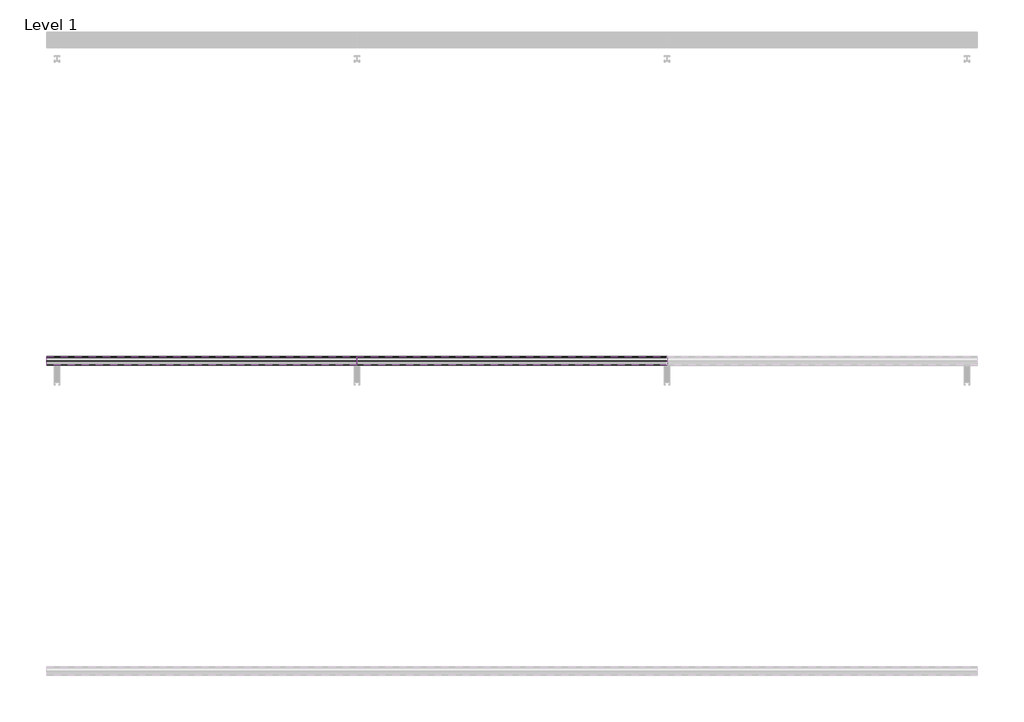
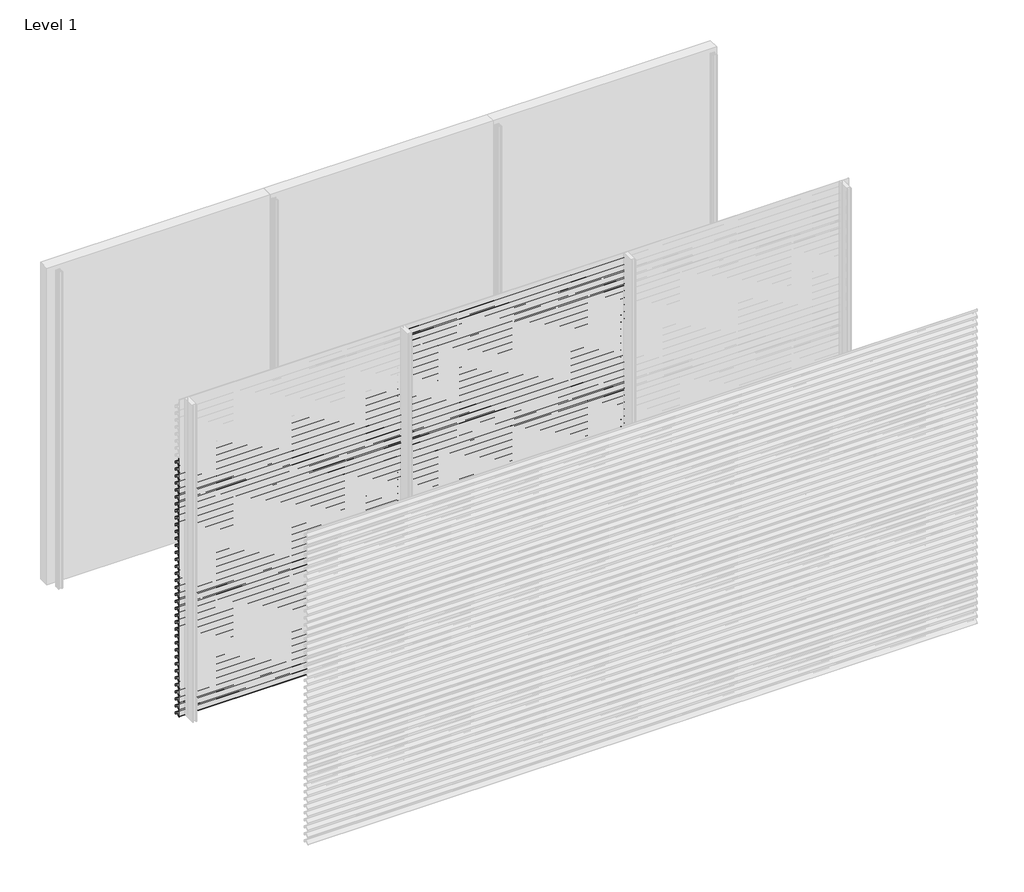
# One storey, part 6 of 27: 71 proxies.
"""IFC4 building model written with IfcOpenShell, lengths in millimetres."""

import ifcopenshell
import ifcopenshell.guid

model = None  # the IFC model being written
_history = None  # IfcOwnerHistory: only IFC2X3 demands one
_inside = {}  # id of a spatial element -> (the spatial element, [elements in it])
_under = {}  # id of a project, library or spatial element -> (it, [spatial elements below it])
_declared = {}  # id of a project -> (the project, [libraries it declares])
_typed = {}  # id of a type object -> (the type object, [elements of that type])
_made_of = {}  # id of a material, layer set ... -> (it, [elements and type objects made of it])


def new_model(schema):
    """Start an empty IFC model of exactly this schema.

    Asked for "IFC4X3", IfcOpenShell would pick the latest addendum, in which some entities
    have other attributes; the version numbers below select the first issue.
    IFC2X3 requires an IfcOwnerHistory on every rooted entity: one is made here for all.
    """
    global model, _history
    if schema == "IFC4X3":
        model = ifcopenshell.file(schema_version=(4, 3, 0, 0))
    else:
        model = ifcopenshell.file(schema=schema)
    _inside.clear()
    _under.clear()
    _declared.clear()
    _typed.clear()
    _made_of.clear()
    _history = None
    if model.schema == "IFC2X3":
        org = make("IfcOrganization", Name="unknown")
        user = make(
            "IfcPersonAndOrganization",
            ThePerson=make("IfcPerson", FamilyName="unknown"),
            TheOrganization=org,
        )
        app = make(
            "IfcApplication",
            ApplicationDeveloper=org,
            Version="unknown",
            ApplicationFullName="unknown",
            ApplicationIdentifier="unknown",
        )
        _history = make(
            "IfcOwnerHistory",
            OwningUser=user,
            OwningApplication=app,
            ChangeAction="ADDED",
            CreationDate=0,
        )
    return model


def make(cls, **values):
    """One entity of the class cls with the attributes given. An attribute that is None is left unset."""
    return model.create_entity(
        cls, **{name: value for name, value in values.items() if value is not None}
    )


def rooted(cls, **values):
    """An entity with a GlobalId (a new one), such as an element, a storey or a relation."""
    return make(cls, GlobalId=ifcopenshell.guid.new(), OwnerHistory=_history, **values)


def si_unit(unit_type, name, prefix=None):
    """IfcSIUnit, for example si_unit("LENGTHUNIT", "METRE", prefix="MILLI")."""
    return make("IfcSIUnit", UnitType=unit_type, Prefix=prefix, Name=name)


def assignment(units):
    """IfcUnitAssignment: the units of a project."""
    return None if units is None else make("IfcUnitAssignment", Units=units)


def point(xyz):
    """IfcCartesianPoint."""
    return None if xyz is None else make("IfcCartesianPoint", Coordinates=xyz)


def direction(xyz):
    """IfcDirection."""
    return None if xyz is None else make("IfcDirection", DirectionRatios=xyz)


def frame(location, z_axis=None, x_axis=None):
    """IfcAxis2Placement3D, a coordinate frame: its origin and axes. An axis left out is left unset."""
    return make(
        "IfcAxis2Placement3D",
        Location=point(location),
        Axis=direction(z_axis),
        RefDirection=direction(x_axis),
    )


def origin():
    """The frame at (0, 0, 0) with its axes left unset."""
    return frame((0.0, 0.0, 0.0))


def place(relative_to, where):
    """IfcLocalPlacement: puts the frame where relative to a parent placement (None: the world)."""
    return make(
        "IfcLocalPlacement", PlacementRelTo=relative_to, RelativePlacement=where
    )


def context(
    kind, dimensions, precision=None, world=None, true_north=None, identifier=None
):
    """IfcGeometricRepresentationContext, for example the 3D "Model" context."""
    return make(
        "IfcGeometricRepresentationContext",
        ContextIdentifier=identifier,
        ContextType=kind,
        CoordinateSpaceDimension=dimensions,
        Precision=precision,
        WorldCoordinateSystem=world,
        TrueNorth=true_north,
    )


def project(units=None, contexts=None):
    """IfcProject with its units and contexts."""
    return rooted(
        "IfcProject",
        Name="project",
        RepresentationContexts=contexts,
        UnitsInContext=assignment(units),
    )


def spatial(cls, under=None, at=None, **own):
    """A site, building, storey or space (cls), placed at a placement, below another one or the project."""
    s = rooted(cls, ObjectPlacement=at, **own)
    if under is not None:
        _under.setdefault(under.id(), (under, []))[1].append(s)
    return s


def polyline(points):
    """IfcPolyline through the points."""
    return make("IfcPolyline", Points=[point(p) for p in points])


def outline(outer, holes=None, kind="AREA"):
    """IfcArbitraryClosedProfileDef: a profile drawn as a closed curve; with holes, ...WithVoids."""
    if holes is None:
        return make("IfcArbitraryClosedProfileDef", ProfileType=kind, OuterCurve=outer)
    return make(
        "IfcArbitraryProfileDefWithVoids",
        ProfileType=kind,
        OuterCurve=outer,
        InnerCurves=holes,
    )


def extrude(swept, where, along, depth):
    """IfcExtrudedAreaSolid: the profile swept, set in the frame where, extruded along a direction by depth."""
    return make(
        "IfcExtrudedAreaSolid",
        SweptArea=swept,
        Position=where,
        ExtrudedDirection=direction(along),
        Depth=depth,
    )


def shape(context_of_items, identifier, shape_type, items):
    """IfcShapeRepresentation: the items that make up one representation, for example the "Body"."""
    return make(
        "IfcShapeRepresentation",
        ContextOfItems=context_of_items,
        RepresentationIdentifier=identifier,
        RepresentationType=shape_type,
        Items=items,
    )


def made_of(thing, what):
    """Note that an element or type object is made of a material, layer set ...; save() writes the relation."""
    if what is not None:
        _made_of.setdefault(what.id(), (what, []))[1].append(thing)
    return thing


def element(
    cls,
    number,
    at=None,
    inside=None,
    cuts=None,
    type_object=None,
    material=None,
    context=None,
    identifier="Body",
    shape_type=None,
    held_by="IfcProductDefinitionShape",
    body=None,
    shapes=None,
    **own,
):
    """One element of the class cls, such as IfcWall. Its Tag is "e" and its number.

    at: its placement. inside: the storey or other place that contains it. cuts: it is an
    opening in that element (IfcRelVoidsElement). A single representation is given by context,
    identifier, shape_type and body (its items); several are given by shapes. held_by: the class
    of the entity that holds the representations. save() writes the other relations.
    """
    e = rooted(cls, Tag="e%d" % number, ObjectPlacement=at, **own)
    if body is not None:
        shapes = [shape(context, identifier, shape_type, body)]
    if shapes is not None:
        e.Representation = make(held_by, Representations=shapes)
    if inside is not None:
        _inside.setdefault(inside.id(), (inside, []))[1].append(e)
    if cuts is not None:
        rooted(
            "IfcRelVoidsElement", RelatingBuildingElement=cuts, RelatedOpeningElement=e
        )
    if type_object is not None:
        _typed.setdefault(type_object.id(), (type_object, []))[1].append(e)
    return made_of(e, material)


def aggregate(whole, parts):
    """IfcRelAggregates: a whole, such as a stair, and the parts it consists of."""
    return rooted("IfcRelAggregates", RelatingObject=whole, RelatedObjects=parts)


def save(model, path):
    """Write the relations noted so far, then the file.

    IfcRelAggregates (storeys below a building ...), IfcRelContainedInSpatialStructure (elements
    in a storey), IfcRelDefinesByType, IfcRelAssociatesMaterial and IfcRelDeclares: one each for
    every whole, place, type object, material and project.
    """
    for whole, parts in _under.values():
        aggregate(whole, parts)
    for where, things in _inside.values():
        rooted(
            "IfcRelContainedInSpatialStructure",
            RelatedElements=things,
            RelatingStructure=where,
        )
    for kind, things in _typed.values():
        rooted("IfcRelDefinesByType", RelatedObjects=things, RelatingType=kind)
    for what, things in _made_of.values():
        rooted("IfcRelAssociatesMaterial", RelatedObjects=things, RelatingMaterial=what)
    for by, libraries in _declared.values():
        rooted("IfcRelDeclares", RelatingContext=by, RelatedDefinitions=libraries)
    model.write(path)


model = new_model("IFC4")

# Units and contexts
model_context = context("Model", 3, world=origin())
ifc_project = project(units=[si_unit("LENGTHUNIT", "METRE", prefix="MILLI")], contexts=[model_context])

# Site, building, storey
site = spatial("IfcSite", under=ifc_project)
building = spatial("IfcBuilding", under=site)
storey = spatial("IfcBuildingStorey", under=building, Name="Level 1", Elevation=0.0)

# Proxies
placement = place(None, origin())
element("IfcBuildingElementProxy", 1, Name="Wall Sweeps", at=placement, inside=storey, context=model_context, shape_type="SweptSolid", body=[
    extrude(outline(polyline([(-47943.0, 2385.2), (-47943.0, 2365.5), (-47944.25, 2366.5866084), (-47944.25, 2384.4872415), (-47963.0322086, 2397.6010889), (-47995.1332975, 2365.5), (-47996.0525363, 2366.4192388), (-47964.1148087, 2398.3569665), (-47998.0, 2422.0158044), (-47998.0, 2442.0), (-47996.75, 2442.0), (-47996.75, 2422.7285629), (-47943.0, 2385.2)])), frame((0.0, 0.0, 0.0), z_axis=(1.0, 0.0, 0.0), x_axis=(0.0, 1.0, 0.0)), (0.0, 0.0, 1.0), 2000.0),
])
element("IfcBuildingElementProxy", 2, Name="Wall Sweeps", at=placement, inside=storey, context=model_context, shape_type="SweptSolid", body=[
    extrude(outline(polyline([(-47943.0, 2319.2), (-47943.0, 2299.5), (-47944.25, 2300.5866084), (-47944.25, 2318.4872415), (-47963.0322086, 2331.6010889), (-47995.1332975, 2299.5), (-47996.0525363, 2300.4192388), (-47964.1148087, 2332.3569665), (-47998.0, 2356.0158044), (-47998.0, 2376.0), (-47996.75, 2376.0), (-47996.75, 2356.7285629), (-47943.0, 2319.2)])), frame((0.0, 0.0, 0.0), z_axis=(1.0, 0.0, 0.0), x_axis=(0.0, 1.0, 0.0)), (0.0, 0.0, 1.0), 2000.0),
])
element("IfcBuildingElementProxy", 3, Name="Wall Sweeps", at=placement, inside=storey, context=model_context, shape_type="SweptSolid", body=[
    extrude(outline(polyline([(-47943.0, 2253.2), (-47943.0, 2233.5), (-47944.25, 2234.5866084), (-47944.25, 2252.4872415), (-47963.0322086, 2265.6010889), (-47995.1332975, 2233.5), (-47996.0525363, 2234.4192388), (-47964.1148087, 2266.3569665), (-47998.0, 2290.0158044), (-47998.0, 2310.0), (-47996.75, 2310.0), (-47996.75, 2290.7285629), (-47943.0, 2253.2)])), frame((0.0, 0.0, 0.0), z_axis=(1.0, 0.0, 0.0), x_axis=(0.0, 1.0, 0.0)), (0.0, 0.0, 1.0), 2000.0),
])
element("IfcBuildingElementProxy", 4, Name="Wall Sweeps", at=placement, inside=storey, context=model_context, shape_type="SweptSolid", body=[
    extrude(outline(polyline([(-47943.0, 2187.2), (-47943.0, 2167.5), (-47944.25, 2168.5866084), (-47944.25, 2186.4872415), (-47963.0322086, 2199.6010889), (-47995.1332975, 2167.5), (-47996.0525363, 2168.4192388), (-47964.1148087, 2200.3569665), (-47998.0, 2224.0158044), (-47998.0, 2244.0), (-47996.75, 2244.0), (-47996.75, 2224.7285629), (-47943.0, 2187.2)])), frame((0.0, 0.0, 0.0), z_axis=(1.0, 0.0, 0.0), x_axis=(0.0, 1.0, 0.0)), (0.0, 0.0, 1.0), 2000.0),
])
element("IfcBuildingElementProxy", 5, Name="Wall Sweeps", at=placement, inside=storey, context=model_context, shape_type="SweptSolid", body=[
    extrude(outline(polyline([(-47943.0, 2121.2), (-47943.0, 2101.5), (-47944.25, 2102.5866084), (-47944.25, 2120.4872415), (-47963.0322086, 2133.6010889), (-47995.1332975, 2101.5), (-47996.0525363, 2102.4192388), (-47964.1148087, 2134.3569665), (-47998.0, 2158.0158044), (-47998.0, 2178.0), (-47996.75, 2178.0), (-47996.75, 2158.7285629), (-47943.0, 2121.2)])), frame((0.0, 0.0, 0.0), z_axis=(1.0, 0.0, 0.0), x_axis=(0.0, 1.0, 0.0)), (0.0, 0.0, 1.0), 2000.0),
])
element("IfcBuildingElementProxy", 6, Name="Wall Sweeps", at=placement, inside=storey, context=model_context, shape_type="SweptSolid", body=[
    extrude(outline(polyline([(-47943.0, 2055.2), (-47943.0, 2035.5), (-47944.25, 2036.5866084), (-47944.25, 2054.4872415), (-47963.0322086, 2067.6010889), (-47995.1332975, 2035.5), (-47996.0525363, 2036.4192388), (-47964.1148087, 2068.3569665), (-47998.0, 2092.0158044), (-47998.0, 2112.0), (-47996.75, 2112.0), (-47996.75, 2092.7285629), (-47943.0, 2055.2)])), frame((0.0, 0.0, 0.0), z_axis=(1.0, 0.0, 0.0), x_axis=(0.0, 1.0, 0.0)), (0.0, 0.0, 1.0), 2000.0),
])
element("IfcBuildingElementProxy", 7, Name="Wall Sweeps", at=placement, inside=storey, context=model_context, shape_type="SweptSolid", body=[
    extrude(outline(polyline([(-47943.0, 1989.2), (-47943.0, 1969.5), (-47944.25, 1970.5866084), (-47944.25, 1988.4872415), (-47963.0322086, 2001.6010889), (-47995.1332975, 1969.5), (-47996.0525363, 1970.4192388), (-47964.1148087, 2002.3569665), (-47998.0, 2026.0158044), (-47998.0, 2046.0), (-47996.75, 2046.0), (-47996.75, 2026.7285629), (-47943.0, 1989.2)])), frame((0.0, 0.0, 0.0), z_axis=(1.0, 0.0, 0.0), x_axis=(0.0, 1.0, 0.0)), (0.0, 0.0, 1.0), 2000.0),
])
element("IfcBuildingElementProxy", 8, Name="Wall Sweeps", at=placement, inside=storey, context=model_context, shape_type="SweptSolid", body=[
    extrude(outline(polyline([(-47943.0, 1923.2), (-47943.0, 1903.5), (-47944.25, 1904.5866084), (-47944.25, 1922.4872415), (-47963.0322086, 1935.6010889), (-47995.1332975, 1903.5), (-47996.0525363, 1904.4192388), (-47964.1148087, 1936.3569665), (-47998.0, 1960.0158044), (-47998.0, 1980.0), (-47996.75, 1980.0), (-47996.75, 1960.7285629), (-47943.0, 1923.2)])), frame((0.0, 0.0, 0.0), z_axis=(1.0, 0.0, 0.0), x_axis=(0.0, 1.0, 0.0)), (0.0, 0.0, 1.0), 2000.0),
])
element("IfcBuildingElementProxy", 9, Name="Wall Sweeps", at=placement, inside=storey, context=model_context, shape_type="SweptSolid", body=[
    extrude(outline(polyline([(-47943.0, 1857.2), (-47943.0, 1837.5), (-47944.25, 1838.5866084), (-47944.25, 1856.4872415), (-47963.0322086, 1869.6010889), (-47995.1332975, 1837.5), (-47996.0525363, 1838.4192388), (-47964.1148087, 1870.3569665), (-47998.0, 1894.0158044), (-47998.0, 1914.0), (-47996.75, 1914.0), (-47996.75, 1894.7285629), (-47943.0, 1857.2)])), frame((0.0, 0.0, 0.0), z_axis=(1.0, 0.0, 0.0), x_axis=(0.0, 1.0, 0.0)), (0.0, 0.0, 1.0), 2000.0),
])
element("IfcBuildingElementProxy", 10, Name="Wall Sweeps", at=placement, inside=storey, context=model_context, shape_type="SweptSolid", body=[
    extrude(outline(polyline([(-47943.0, 1791.2), (-47943.0, 1771.5), (-47944.25, 1772.5866084), (-47944.25, 1790.4872415), (-47963.0322086, 1803.6010889), (-47995.1332975, 1771.5), (-47996.0525363, 1772.4192388), (-47964.1148087, 1804.3569665), (-47998.0, 1828.0158044), (-47998.0, 1848.0), (-47996.75, 1848.0), (-47996.75, 1828.7285629), (-47943.0, 1791.2)])), frame((0.0, 0.0, 0.0), z_axis=(1.0, 0.0, 0.0), x_axis=(0.0, 1.0, 0.0)), (0.0, 0.0, 1.0), 2000.0),
])
element("IfcBuildingElementProxy", 11, Name="Wall Sweeps", at=placement, inside=storey, context=model_context, shape_type="SweptSolid", body=[
    extrude(outline(polyline([(-47943.0, 1725.2), (-47943.0, 1705.5), (-47944.25, 1706.5866084), (-47944.25, 1724.4872415), (-47963.0322086, 1737.6010889), (-47995.1332975, 1705.5), (-47996.0525363, 1706.4192388), (-47964.1148087, 1738.3569665), (-47998.0, 1762.0158044), (-47998.0, 1782.0), (-47996.75, 1782.0), (-47996.75, 1762.7285629), (-47943.0, 1725.2)])), frame((0.0, 0.0, 0.0), z_axis=(1.0, 0.0, 0.0), x_axis=(0.0, 1.0, 0.0)), (0.0, 0.0, 1.0), 2000.0),
])
element("IfcBuildingElementProxy", 12, Name="Wall Sweeps", at=placement, inside=storey, context=model_context, shape_type="SweptSolid", body=[
    extrude(outline(polyline([(-47943.0, 1659.2), (-47943.0, 1639.5), (-47944.25, 1640.5866084), (-47944.25, 1658.4872415), (-47963.0322086, 1671.6010889), (-47995.1332975, 1639.5), (-47996.0525363, 1640.4192388), (-47964.1148087, 1672.3569665), (-47998.0, 1696.0158044), (-47998.0, 1716.0), (-47996.75, 1716.0), (-47996.75, 1696.7285629), (-47943.0, 1659.2)])), frame((0.0, 0.0, 0.0), z_axis=(1.0, 0.0, 0.0), x_axis=(0.0, 1.0, 0.0)), (0.0, 0.0, 1.0), 2000.0),
])
element("IfcBuildingElementProxy", 13, Name="Wall Sweeps", at=placement, inside=storey, context=model_context, shape_type="SweptSolid", body=[
    extrude(outline(polyline([(-47943.0, 1593.2), (-47943.0, 1573.5), (-47944.25, 1574.5866084), (-47944.25, 1592.4872415), (-47963.0322086, 1605.6010889), (-47995.1332975, 1573.5), (-47996.0525363, 1574.4192388), (-47964.1148087, 1606.3569665), (-47998.0, 1630.0158044), (-47998.0, 1650.0), (-47996.75, 1650.0), (-47996.75, 1630.7285629), (-47943.0, 1593.2)])), frame((0.0, 0.0, 0.0), z_axis=(1.0, 0.0, 0.0), x_axis=(0.0, 1.0, 0.0)), (0.0, 0.0, 1.0), 2000.0),
])
element("IfcBuildingElementProxy", 14, Name="Wall Sweeps", at=placement, inside=storey, context=model_context, shape_type="SweptSolid", body=[
    extrude(outline(polyline([(-47943.0, 1527.2), (-47943.0, 1507.5), (-47944.25, 1508.5866084), (-47944.25, 1526.4872415), (-47963.0322086, 1539.6010889), (-47995.1332975, 1507.5), (-47996.0525363, 1508.4192388), (-47964.1148087, 1540.3569665), (-47998.0, 1564.0158044), (-47998.0, 1584.0), (-47996.75, 1584.0), (-47996.75, 1564.7285629), (-47943.0, 1527.2)])), frame((0.0, 0.0, 0.0), z_axis=(1.0, 0.0, 0.0), x_axis=(0.0, 1.0, 0.0)), (0.0, 0.0, 1.0), 2000.0),
])
element("IfcBuildingElementProxy", 15, Name="Wall Sweeps", at=placement, inside=storey, context=model_context, shape_type="SweptSolid", body=[
    extrude(outline(polyline([(-47943.0, 1461.2), (-47943.0, 1441.5), (-47944.25, 1442.5866084), (-47944.25, 1460.4872415), (-47963.0322086, 1473.6010889), (-47995.1332975, 1441.5), (-47996.0525363, 1442.4192388), (-47964.1148087, 1474.3569665), (-47998.0, 1498.0158044), (-47998.0, 1518.0), (-47996.75, 1518.0), (-47996.75, 1498.7285629), (-47943.0, 1461.2)])), frame((0.0, 0.0, 0.0), z_axis=(1.0, 0.0, 0.0), x_axis=(0.0, 1.0, 0.0)), (0.0, 0.0, 1.0), 2000.0),
])
element("IfcBuildingElementProxy", 16, Name="Wall Sweeps", at=placement, inside=storey, context=model_context, shape_type="SweptSolid", body=[
    extrude(outline(polyline([(-47943.0, 1395.2), (-47943.0, 1375.5), (-47944.25, 1376.5866084), (-47944.25, 1394.4872415), (-47963.0322086, 1407.6010889), (-47995.1332975, 1375.5), (-47996.0525363, 1376.4192388), (-47964.1148087, 1408.3569665), (-47998.0, 1432.0158044), (-47998.0, 1452.0), (-47996.75, 1452.0), (-47996.75, 1432.7285629), (-47943.0, 1395.2)])), frame((0.0, 0.0, 0.0), z_axis=(1.0, 0.0, 0.0), x_axis=(0.0, 1.0, 0.0)), (0.0, 0.0, 1.0), 2000.0),
])
element("IfcBuildingElementProxy", 17, Name="Wall Sweeps", at=placement, inside=storey, context=model_context, shape_type="SweptSolid", body=[
    extrude(outline(polyline([(-47943.0, 1329.2), (-47943.0, 1309.5), (-47944.25, 1310.5866084), (-47944.25, 1328.4872415), (-47963.0322086, 1341.6010889), (-47995.1332975, 1309.5), (-47996.0525363, 1310.4192388), (-47964.1148087, 1342.3569665), (-47998.0, 1366.0158044), (-47998.0, 1386.0), (-47996.75, 1386.0), (-47996.75, 1366.7285629), (-47943.0, 1329.2)])), frame((0.0, 0.0, 0.0), z_axis=(1.0, 0.0, 0.0), x_axis=(0.0, 1.0, 0.0)), (0.0, 0.0, 1.0), 2000.0),
])
element("IfcBuildingElementProxy", 18, Name="Wall Sweeps", at=placement, inside=storey, context=model_context, shape_type="SweptSolid", body=[
    extrude(outline(polyline([(-47943.0, 1263.2), (-47943.0, 1243.5), (-47944.25, 1244.5866084), (-47944.25, 1262.4872415), (-47963.0322086, 1275.6010889), (-47995.1332975, 1243.5), (-47996.0525363, 1244.4192388), (-47964.1148087, 1276.3569665), (-47998.0, 1300.0158044), (-47998.0, 1320.0), (-47996.75, 1320.0), (-47996.75, 1300.7285629), (-47943.0, 1263.2)])), frame((0.0, 0.0, 0.0), z_axis=(1.0, 0.0, 0.0), x_axis=(0.0, 1.0, 0.0)), (0.0, 0.0, 1.0), 2000.0),
])
element("IfcBuildingElementProxy", 19, Name="Wall Sweeps", at=placement, inside=storey, context=model_context, shape_type="SweptSolid", body=[
    extrude(outline(polyline([(-47943.0, 1197.2), (-47943.0, 1177.5), (-47944.25, 1178.5866084), (-47944.25, 1196.4872415), (-47963.0322086, 1209.6010889), (-47995.1332975, 1177.5), (-47996.0525363, 1178.4192388), (-47964.1148087, 1210.3569665), (-47998.0, 1234.0158044), (-47998.0, 1254.0), (-47996.75, 1254.0), (-47996.75, 1234.7285629), (-47943.0, 1197.2)])), frame((0.0, 0.0, 0.0), z_axis=(1.0, 0.0, 0.0), x_axis=(0.0, 1.0, 0.0)), (0.0, 0.0, 1.0), 2000.0),
])
element("IfcBuildingElementProxy", 20, Name="Wall Sweeps", at=placement, inside=storey, context=model_context, shape_type="SweptSolid", body=[
    extrude(outline(polyline([(-47943.0, 1131.2), (-47943.0, 1111.5), (-47944.25, 1112.5866084), (-47944.25, 1130.4872415), (-47963.0322086, 1143.6010889), (-47995.1332975, 1111.5), (-47996.0525363, 1112.4192388), (-47964.1148087, 1144.3569665), (-47998.0, 1168.0158044), (-47998.0, 1188.0), (-47996.75, 1188.0), (-47996.75, 1168.7285629), (-47943.0, 1131.2)])), frame((0.0, 0.0, 0.0), z_axis=(1.0, 0.0, 0.0), x_axis=(0.0, 1.0, 0.0)), (0.0, 0.0, 1.0), 2000.0),
])
element("IfcBuildingElementProxy", 21, Name="Wall Sweeps", at=placement, inside=storey, context=model_context, shape_type="SweptSolid", body=[
    extrude(outline(polyline([(-47943.0, 1065.2), (-47943.0, 1045.5), (-47944.25, 1046.5866084), (-47944.25, 1064.4872415), (-47963.0322086, 1077.6010889), (-47995.1332975, 1045.5), (-47996.0525363, 1046.4192388), (-47964.1148087, 1078.3569665), (-47998.0, 1102.0158044), (-47998.0, 1122.0), (-47996.75, 1122.0), (-47996.75, 1102.7285629), (-47943.0, 1065.2)])), frame((0.0, 0.0, 0.0), z_axis=(1.0, 0.0, 0.0), x_axis=(0.0, 1.0, 0.0)), (0.0, 0.0, 1.0), 2000.0),
])
element("IfcBuildingElementProxy", 22, Name="Wall Sweeps", at=placement, inside=storey, context=model_context, shape_type="SweptSolid", body=[
    extrude(outline(polyline([(-47943.0, 999.2), (-47943.0, 979.5), (-47944.25, 980.5866084), (-47944.25, 998.4872415), (-47963.0322086, 1011.6010889), (-47995.1332975, 979.5), (-47996.0525363, 980.4192388), (-47964.1148087, 1012.3569665), (-47998.0, 1036.0158044), (-47998.0, 1056.0), (-47996.75, 1056.0), (-47996.75, 1036.7285629), (-47943.0, 999.2)])), frame((0.0, 0.0, 0.0), z_axis=(1.0, 0.0, 0.0), x_axis=(0.0, 1.0, 0.0)), (0.0, 0.0, 1.0), 2000.0),
])
element("IfcBuildingElementProxy", 23, Name="Wall Sweeps", at=placement, inside=storey, context=model_context, shape_type="SweptSolid", body=[
    extrude(outline(polyline([(-47943.0, 933.2), (-47943.0, 913.5), (-47944.25, 914.5866084), (-47944.25, 932.4872415), (-47963.0322086, 945.6010889), (-47995.1332975, 913.5), (-47996.0525363, 914.4192388), (-47964.1148087, 946.3569665), (-47998.0, 970.0158044), (-47998.0, 990.0), (-47996.75, 990.0), (-47996.75, 970.7285629), (-47943.0, 933.2)])), frame((0.0, 0.0, 0.0), z_axis=(1.0, 0.0, 0.0), x_axis=(0.0, 1.0, 0.0)), (0.0, 0.0, 1.0), 2000.0),
])
element("IfcBuildingElementProxy", 24, Name="Wall Sweeps", at=placement, inside=storey, context=model_context, shape_type="SweptSolid", body=[
    extrude(outline(polyline([(-47943.0, 867.2), (-47943.0, 847.5), (-47944.25, 848.5866084), (-47944.25, 866.4872415), (-47963.0322086, 879.6010889), (-47995.1332975, 847.5), (-47996.0525363, 848.4192388), (-47964.1148087, 880.3569665), (-47998.0, 904.0158044), (-47998.0, 924.0), (-47996.75, 924.0), (-47996.75, 904.7285629), (-47943.0, 867.2)])), frame((0.0, 0.0, 0.0), z_axis=(1.0, 0.0, 0.0), x_axis=(0.0, 1.0, 0.0)), (0.0, 0.0, 1.0), 2000.0),
])
element("IfcBuildingElementProxy", 25, Name="Wall Sweeps", at=placement, inside=storey, context=model_context, shape_type="SweptSolid", body=[
    extrude(outline(polyline([(-47943.0, 801.2), (-47943.0, 781.5), (-47944.25, 782.5866084), (-47944.25, 800.4872415), (-47963.0322086, 813.6010889), (-47995.1332975, 781.5), (-47996.0525363, 782.4192388), (-47964.1148087, 814.3569665), (-47998.0, 838.0158044), (-47998.0, 858.0), (-47996.75, 858.0), (-47996.75, 838.7285629), (-47943.0, 801.2)])), frame((0.0, 0.0, 0.0), z_axis=(1.0, 0.0, 0.0), x_axis=(0.0, 1.0, 0.0)), (0.0, 0.0, 1.0), 2000.0),
])
element("IfcBuildingElementProxy", 26, Name="Wall Sweeps", at=placement, inside=storey, context=model_context, shape_type="SweptSolid", body=[
    extrude(outline(polyline([(-47943.0, 735.2), (-47943.0, 715.5), (-47944.25, 716.5866084), (-47944.25, 734.4872415), (-47963.0322086, 747.6010889), (-47995.1332975, 715.5), (-47996.0525363, 716.4192388), (-47964.1148087, 748.3569665), (-47998.0, 772.0158044), (-47998.0, 792.0), (-47996.75, 792.0), (-47996.75, 772.7285629), (-47943.0, 735.2)])), frame((0.0, 0.0, 0.0), z_axis=(1.0, 0.0, 0.0), x_axis=(0.0, 1.0, 0.0)), (0.0, 0.0, 1.0), 2000.0),
])
element("IfcBuildingElementProxy", 27, Name="Wall Sweeps", at=placement, inside=storey, context=model_context, shape_type="SweptSolid", body=[
    extrude(outline(polyline([(-47943.0, 669.2), (-47943.0, 649.5), (-47944.25, 650.5866084), (-47944.25, 668.4872415), (-47963.0322086, 681.6010889), (-47995.1332975, 649.5), (-47996.0525363, 650.4192388), (-47964.1148087, 682.3569665), (-47998.0, 706.0158044), (-47998.0, 726.0), (-47996.75, 726.0), (-47996.75, 706.7285629), (-47943.0, 669.2)])), frame((0.0, 0.0, 0.0), z_axis=(1.0, 0.0, 0.0), x_axis=(0.0, 1.0, 0.0)), (0.0, 0.0, 1.0), 2000.0),
])
element("IfcBuildingElementProxy", 28, Name="Wall Sweeps", at=placement, inside=storey, context=model_context, shape_type="SweptSolid", body=[
    extrude(outline(polyline([(-47943.0, 603.2), (-47943.0, 583.5), (-47944.25, 584.5866084), (-47944.25, 602.4872415), (-47963.0322086, 615.6010889), (-47995.1332975, 583.5), (-47996.0525363, 584.4192388), (-47964.1148087, 616.3569665), (-47998.0, 640.0158044), (-47998.0, 660.0), (-47996.75, 660.0), (-47996.75, 640.7285629), (-47943.0, 603.2)])), frame((0.0, 0.0, 0.0), z_axis=(1.0, 0.0, 0.0), x_axis=(0.0, 1.0, 0.0)), (0.0, 0.0, 1.0), 2000.0),
])
element("IfcBuildingElementProxy", 29, Name="Wall Sweeps", at=placement, inside=storey, context=model_context, shape_type="SweptSolid", body=[
    extrude(outline(polyline([(-47943.0, 537.2), (-47943.0, 517.5), (-47944.25, 518.5866084), (-47944.25, 536.4872415), (-47963.0322086, 549.6010889), (-47995.1332975, 517.5), (-47996.0525363, 518.4192388), (-47964.1148087, 550.3569665), (-47998.0, 574.0158044), (-47998.0, 594.0), (-47996.75, 594.0), (-47996.75, 574.7285629), (-47943.0, 537.2)])), frame((0.0, 0.0, 0.0), z_axis=(1.0, 0.0, 0.0), x_axis=(0.0, 1.0, 0.0)), (0.0, 0.0, 1.0), 2000.0),
])
element("IfcBuildingElementProxy", 30, Name="Wall Sweeps", at=placement, inside=storey, context=model_context, shape_type="SweptSolid", body=[
    extrude(outline(polyline([(-47943.0, 471.2), (-47943.0, 451.5), (-47944.25, 452.5866084), (-47944.25, 470.4872415), (-47963.0322086, 483.6010889), (-47995.1332975, 451.5), (-47996.0525363, 452.4192388), (-47964.1148087, 484.3569665), (-47998.0, 508.0158044), (-47998.0, 528.0), (-47996.75, 528.0), (-47996.75, 508.7285629), (-47943.0, 471.2)])), frame((0.0, 0.0, 0.0), z_axis=(1.0, 0.0, 0.0), x_axis=(0.0, 1.0, 0.0)), (0.0, 0.0, 1.0), 2000.0),
])
element("IfcBuildingElementProxy", 31, Name="Wall Sweeps", at=placement, inside=storey, context=model_context, shape_type="SweptSolid", body=[
    extrude(outline(polyline([(-47943.0, 405.2), (-47943.0, 385.5), (-47944.25, 386.5866084), (-47944.25, 404.4872415), (-47963.0322086, 417.6010889), (-47995.1332975, 385.5), (-47996.0525363, 386.4192388), (-47964.1148087, 418.3569665), (-47998.0, 442.0158044), (-47998.0, 462.0), (-47996.75, 462.0), (-47996.75, 442.7285629), (-47943.0, 405.2)])), frame((0.0, 0.0, 0.0), z_axis=(1.0, 0.0, 0.0), x_axis=(0.0, 1.0, 0.0)), (0.0, 0.0, 1.0), 2000.0),
])
element("IfcBuildingElementProxy", 32, Name="Wall Sweeps", at=placement, inside=storey, context=model_context, shape_type="SweptSolid", body=[
    extrude(outline(polyline([(-47943.0, 339.2), (-47943.0, 319.5), (-47944.25, 320.5866084), (-47944.25, 338.4872415), (-47963.0322086, 351.6010889), (-47995.1332975, 319.5), (-47996.0525363, 320.4192388), (-47964.1148087, 352.3569665), (-47998.0, 376.0158044), (-47998.0, 396.0), (-47996.75, 396.0), (-47996.75, 376.7285629), (-47943.0, 339.2)])), frame((0.0, 0.0, 0.0), z_axis=(1.0, 0.0, 0.0), x_axis=(0.0, 1.0, 0.0)), (0.0, 0.0, 1.0), 2000.0),
])
element("IfcBuildingElementProxy", 33, Name="Wall Sweeps", at=placement, inside=storey, context=model_context, shape_type="SweptSolid", body=[
    extrude(outline(polyline([(-47943.0, 273.2), (-47943.0, 253.5), (-47944.25, 254.5866084), (-47944.25, 272.4872415), (-47963.0322086, 285.6010889), (-47995.1332975, 253.5), (-47996.0525363, 254.4192388), (-47964.1148087, 286.3569665), (-47998.0, 310.0158044), (-47998.0, 330.0), (-47996.75, 330.0), (-47996.75, 310.7285629), (-47943.0, 273.2)])), frame((0.0, 0.0, 0.0), z_axis=(1.0, 0.0, 0.0), x_axis=(0.0, 1.0, 0.0)), (0.0, 0.0, 1.0), 2000.0),
])
element("IfcBuildingElementProxy", 34, Name="Wall Sweeps", at=placement, inside=storey, context=model_context, shape_type="SweptSolid", body=[
    extrude(outline(polyline([(-47943.0, 207.2), (-47943.0, 187.5), (-47944.25, 188.5866084), (-47944.25, 206.4872415), (-47963.0322086, 219.6010889), (-47995.1332975, 187.5), (-47996.0525363, 188.4192388), (-47964.1148087, 220.3569665), (-47998.0, 244.0158044), (-47998.0, 264.0), (-47996.75, 264.0), (-47996.75, 244.7285629), (-47943.0, 207.2)])), frame((0.0, 0.0, 0.0), z_axis=(1.0, 0.0, 0.0), x_axis=(0.0, 1.0, 0.0)), (0.0, 0.0, 1.0), 2000.0),
])
element("IfcBuildingElementProxy", 35, Name="Wall Sweeps", at=placement, inside=storey, context=model_context, shape_type="SweptSolid", body=[
    extrude(outline(polyline([(-47943.0, 141.2), (-47943.0, 121.5), (-47944.25, 122.5866084), (-47944.25, 140.4872415), (-47963.0322086, 153.6010889), (-47995.1332975, 121.5), (-47996.0525363, 122.4192388), (-47964.1148087, 154.3569665), (-47998.0, 178.0158044), (-47998.0, 198.0), (-47996.75, 198.0), (-47996.75, 178.7285629), (-47943.0, 141.2)])), frame((0.0, 0.0, 0.0), z_axis=(1.0, 0.0, 0.0), x_axis=(0.0, 1.0, 0.0)), (0.0, 0.0, 1.0), 2000.0),
])
element("IfcBuildingElementProxy", 36, Name="Wall Sweeps", at=placement, inside=storey, context=model_context, shape_type="SweptSolid", body=[
    extrude(outline(polyline([(-47943.0, 75.2), (-47943.0, 55.5), (-47944.25, 56.5866084), (-47944.25, 74.4872415), (-47963.0322086, 87.6010889), (-47995.1332975, 55.5), (-47996.0525363, 56.4192388), (-47964.1148087, 88.3569665), (-47998.0, 112.0158044), (-47998.0, 132.0), (-47996.75, 132.0), (-47996.75, 112.7285629), (-47943.0, 75.2)])), frame((0.0, 0.0, 0.0), z_axis=(1.0, 0.0, 0.0), x_axis=(0.0, 1.0, 0.0)), (0.0, 0.0, 1.0), 2000.0),
])
element("IfcBuildingElementProxy", 37, Name="Wall Sweeps", at=placement, inside=storey, context=model_context, shape_type="SweptSolid", body=[
    extrude(outline(polyline([(-47943.0, 9.2), (-47943.0, -10.5), (-47944.25, -9.4133916), (-47944.25, 8.4872415), (-47963.0322086, 21.6010889), (-47995.1332975, -10.5), (-47996.0525363, -9.5807612), (-47964.1148087, 22.3569665), (-47998.0, 46.0158044), (-47998.0, 66.0), (-47996.75, 66.0), (-47996.75, 46.7285629), (-47943.0, 9.2)])), frame((0.0, 0.0, 0.0), z_axis=(1.0, 0.0, 0.0), x_axis=(0.0, 1.0, 0.0)), (0.0, 0.0, 1.0), 2000.0),
])
element("IfcBuildingElementProxy", 38, Name="Wall Sweeps", at=placement, inside=storey, context=model_context, shape_type="SweptSolid", body=[
    extrude(outline(polyline([(-47943.0, 2913.2), (-47943.0, 2893.5), (-47944.25, 2894.5866084), (-47944.25, 2912.4872415), (-47963.0322086, 2925.6010889), (-47995.1332975, 2893.5), (-47996.0525363, 2894.4192388), (-47964.1148087, 2926.3569665), (-47998.0, 2950.0158044), (-47998.0, 2970.0), (-47996.75, 2970.0), (-47996.75, 2950.7285629), (-47943.0, 2913.2)])), frame((2000.0, 0.0, 0.0), z_axis=(1.0, 0.0, 0.0), x_axis=(0.0, 1.0, 0.0)), (0.0, 0.0, 1.0), 2000.0),
])
element("IfcBuildingElementProxy", 39, Name="Wall Sweeps", at=placement, inside=storey, context=model_context, shape_type="SweptSolid", body=[
    extrude(outline(polyline([(-47943.0, 2847.2), (-47943.0, 2827.5), (-47944.25, 2828.5866084), (-47944.25, 2846.4872415), (-47963.0322086, 2859.6010889), (-47995.1332975, 2827.5), (-47996.0525363, 2828.4192388), (-47964.1148087, 2860.3569665), (-47998.0, 2884.0158044), (-47998.0, 2904.0), (-47996.75, 2904.0), (-47996.75, 2884.7285629), (-47943.0, 2847.2)])), frame((2000.0, 0.0, 0.0), z_axis=(1.0, 0.0, 0.0), x_axis=(0.0, 1.0, 0.0)), (0.0, 0.0, 1.0), 2000.0),
])
element("IfcBuildingElementProxy", 40, Name="Wall Sweeps", at=placement, inside=storey, context=model_context, shape_type="SweptSolid", body=[
    extrude(outline(polyline([(-47943.0, 2781.2), (-47943.0, 2761.5), (-47944.25, 2762.5866084), (-47944.25, 2780.4872415), (-47963.0322086, 2793.6010889), (-47995.1332975, 2761.5), (-47996.0525363, 2762.4192388), (-47964.1148087, 2794.3569665), (-47998.0, 2818.0158044), (-47998.0, 2838.0), (-47996.75, 2838.0), (-47996.75, 2818.7285629), (-47943.0, 2781.2)])), frame((2000.0, 0.0, 0.0), z_axis=(1.0, 0.0, 0.0), x_axis=(0.0, 1.0, 0.0)), (0.0, 0.0, 1.0), 2000.0),
])
element("IfcBuildingElementProxy", 41, Name="Wall Sweeps", at=placement, inside=storey, context=model_context, shape_type="SweptSolid", body=[
    extrude(outline(polyline([(-47943.0, 2715.2), (-47943.0, 2695.5), (-47944.25, 2696.5866084), (-47944.25, 2714.4872415), (-47963.0322086, 2727.6010889), (-47995.1332975, 2695.5), (-47996.0525363, 2696.4192388), (-47964.1148087, 2728.3569665), (-47998.0, 2752.0158044), (-47998.0, 2772.0), (-47996.75, 2772.0), (-47996.75, 2752.7285629), (-47943.0, 2715.2)])), frame((2000.0, 0.0, 0.0), z_axis=(1.0, 0.0, 0.0), x_axis=(0.0, 1.0, 0.0)), (0.0, 0.0, 1.0), 2000.0),
])
element("IfcBuildingElementProxy", 42, Name="Wall Sweeps", at=placement, inside=storey, context=model_context, shape_type="SweptSolid", body=[
    extrude(outline(polyline([(-47943.0, 2649.2), (-47943.0, 2629.5), (-47944.25, 2630.5866084), (-47944.25, 2648.4872415), (-47963.0322086, 2661.6010889), (-47995.1332975, 2629.5), (-47996.0525363, 2630.4192388), (-47964.1148087, 2662.3569665), (-47998.0, 2686.0158044), (-47998.0, 2706.0), (-47996.75, 2706.0), (-47996.75, 2686.7285629), (-47943.0, 2649.2)])), frame((2000.0, 0.0, 0.0), z_axis=(1.0, 0.0, 0.0), x_axis=(0.0, 1.0, 0.0)), (0.0, 0.0, 1.0), 2000.0),
])
element("IfcBuildingElementProxy", 43, Name="Wall Sweeps", at=placement, inside=storey, context=model_context, shape_type="SweptSolid", body=[
    extrude(outline(polyline([(-47943.0, 2583.2), (-47943.0, 2563.5), (-47944.25, 2564.5866084), (-47944.25, 2582.4872415), (-47963.0322086, 2595.6010889), (-47995.1332975, 2563.5), (-47996.0525363, 2564.4192388), (-47964.1148087, 2596.3569665), (-47998.0, 2620.0158044), (-47998.0, 2640.0), (-47996.75, 2640.0), (-47996.75, 2620.7285629), (-47943.0, 2583.2)])), frame((2000.0, 0.0, 0.0), z_axis=(1.0, 0.0, 0.0), x_axis=(0.0, 1.0, 0.0)), (0.0, 0.0, 1.0), 2000.0),
])
element("IfcBuildingElementProxy", 44, Name="Wall Sweeps", at=placement, inside=storey, context=model_context, shape_type="SweptSolid", body=[
    extrude(outline(polyline([(-47943.0, 2517.2), (-47943.0, 2497.5), (-47944.25, 2498.5866084), (-47944.25, 2516.4872415), (-47963.0322086, 2529.6010889), (-47995.1332975, 2497.5), (-47996.0525363, 2498.4192388), (-47964.1148087, 2530.3569665), (-47998.0, 2554.0158044), (-47998.0, 2574.0), (-47996.75, 2574.0), (-47996.75, 2554.7285629), (-47943.0, 2517.2)])), frame((2000.0, 0.0, 0.0), z_axis=(1.0, 0.0, 0.0), x_axis=(0.0, 1.0, 0.0)), (0.0, 0.0, 1.0), 2000.0),
])
element("IfcBuildingElementProxy", 45, Name="Wall Sweeps", at=placement, inside=storey, context=model_context, shape_type="SweptSolid", body=[
    extrude(outline(polyline([(-47943.0, 2451.2), (-47943.0, 2431.5), (-47944.25, 2432.5866084), (-47944.25, 2450.4872415), (-47963.0322086, 2463.6010889), (-47995.1332975, 2431.5), (-47996.0525363, 2432.4192388), (-47964.1148087, 2464.3569665), (-47998.0, 2488.0158044), (-47998.0, 2508.0), (-47996.75, 2508.0), (-47996.75, 2488.7285629), (-47943.0, 2451.2)])), frame((2000.0, 0.0, 0.0), z_axis=(1.0, 0.0, 0.0), x_axis=(0.0, 1.0, 0.0)), (0.0, 0.0, 1.0), 2000.0),
])
element("IfcBuildingElementProxy", 46, Name="Wall Sweeps", at=placement, inside=storey, context=model_context, shape_type="SweptSolid", body=[
    extrude(outline(polyline([(-47943.0, 2385.2), (-47943.0, 2365.5), (-47944.25, 2366.5866084), (-47944.25, 2384.4872415), (-47963.0322086, 2397.6010889), (-47995.1332975, 2365.5), (-47996.0525363, 2366.4192388), (-47964.1148087, 2398.3569665), (-47998.0, 2422.0158044), (-47998.0, 2442.0), (-47996.75, 2442.0), (-47996.75, 2422.7285629), (-47943.0, 2385.2)])), frame((2000.0, 0.0, 0.0), z_axis=(1.0, 0.0, 0.0), x_axis=(0.0, 1.0, 0.0)), (0.0, 0.0, 1.0), 2000.0),
])
element("IfcBuildingElementProxy", 47, Name="Wall Sweeps", at=placement, inside=storey, context=model_context, shape_type="SweptSolid", body=[
    extrude(outline(polyline([(-47943.0, 2319.2), (-47943.0, 2299.5), (-47944.25, 2300.5866084), (-47944.25, 2318.4872415), (-47963.0322086, 2331.6010889), (-47995.1332975, 2299.5), (-47996.0525363, 2300.4192388), (-47964.1148087, 2332.3569665), (-47998.0, 2356.0158044), (-47998.0, 2376.0), (-47996.75, 2376.0), (-47996.75, 2356.7285629), (-47943.0, 2319.2)])), frame((2000.0, 0.0, 0.0), z_axis=(1.0, 0.0, 0.0), x_axis=(0.0, 1.0, 0.0)), (0.0, 0.0, 1.0), 2000.0),
])
element("IfcBuildingElementProxy", 48, Name="Wall Sweeps", at=placement, inside=storey, context=model_context, shape_type="SweptSolid", body=[
    extrude(outline(polyline([(-47943.0, 2253.2), (-47943.0, 2233.5), (-47944.25, 2234.5866084), (-47944.25, 2252.4872415), (-47963.0322086, 2265.6010889), (-47995.1332975, 2233.5), (-47996.0525363, 2234.4192388), (-47964.1148087, 2266.3569665), (-47998.0, 2290.0158044), (-47998.0, 2310.0), (-47996.75, 2310.0), (-47996.75, 2290.7285629), (-47943.0, 2253.2)])), frame((2000.0, 0.0, 0.0), z_axis=(1.0, 0.0, 0.0), x_axis=(0.0, 1.0, 0.0)), (0.0, 0.0, 1.0), 2000.0),
])
element("IfcBuildingElementProxy", 49, Name="Wall Sweeps", at=placement, inside=storey, context=model_context, shape_type="SweptSolid", body=[
    extrude(outline(polyline([(-47943.0, 2187.2), (-47943.0, 2167.5), (-47944.25, 2168.5866084), (-47944.25, 2186.4872415), (-47963.0322086, 2199.6010889), (-47995.1332975, 2167.5), (-47996.0525363, 2168.4192388), (-47964.1148087, 2200.3569665), (-47998.0, 2224.0158044), (-47998.0, 2244.0), (-47996.75, 2244.0), (-47996.75, 2224.7285629), (-47943.0, 2187.2)])), frame((2000.0, 0.0, 0.0), z_axis=(1.0, 0.0, 0.0), x_axis=(0.0, 1.0, 0.0)), (0.0, 0.0, 1.0), 2000.0),
])
element("IfcBuildingElementProxy", 50, Name="Wall Sweeps", at=placement, inside=storey, context=model_context, shape_type="SweptSolid", body=[
    extrude(outline(polyline([(-47943.0, 2121.2), (-47943.0, 2101.5), (-47944.25, 2102.5866084), (-47944.25, 2120.4872415), (-47963.0322086, 2133.6010889), (-47995.1332975, 2101.5), (-47996.0525363, 2102.4192388), (-47964.1148087, 2134.3569665), (-47998.0, 2158.0158044), (-47998.0, 2178.0), (-47996.75, 2178.0), (-47996.75, 2158.7285629), (-47943.0, 2121.2)])), frame((2000.0, 0.0, 0.0), z_axis=(1.0, 0.0, 0.0), x_axis=(0.0, 1.0, 0.0)), (0.0, 0.0, 1.0), 2000.0),
])
element("IfcBuildingElementProxy", 51, Name="Wall Sweeps", at=placement, inside=storey, context=model_context, shape_type="SweptSolid", body=[
    extrude(outline(polyline([(-47943.0, 2055.2), (-47943.0, 2035.5), (-47944.25, 2036.5866084), (-47944.25, 2054.4872415), (-47963.0322086, 2067.6010889), (-47995.1332975, 2035.5), (-47996.0525363, 2036.4192388), (-47964.1148087, 2068.3569665), (-47998.0, 2092.0158044), (-47998.0, 2112.0), (-47996.75, 2112.0), (-47996.75, 2092.7285629), (-47943.0, 2055.2)])), frame((2000.0, 0.0, 0.0), z_axis=(1.0, 0.0, 0.0), x_axis=(0.0, 1.0, 0.0)), (0.0, 0.0, 1.0), 2000.0),
])
element("IfcBuildingElementProxy", 52, Name="Wall Sweeps", at=placement, inside=storey, context=model_context, shape_type="SweptSolid", body=[
    extrude(outline(polyline([(-47943.0, 1989.2), (-47943.0, 1969.5), (-47944.25, 1970.5866084), (-47944.25, 1988.4872415), (-47963.0322086, 2001.6010889), (-47995.1332975, 1969.5), (-47996.0525363, 1970.4192388), (-47964.1148087, 2002.3569665), (-47998.0, 2026.0158044), (-47998.0, 2046.0), (-47996.75, 2046.0), (-47996.75, 2026.7285629), (-47943.0, 1989.2)])), frame((2000.0, 0.0, 0.0), z_axis=(1.0, 0.0, 0.0), x_axis=(0.0, 1.0, 0.0)), (0.0, 0.0, 1.0), 2000.0),
])
element("IfcBuildingElementProxy", 53, Name="Wall Sweeps", at=placement, inside=storey, context=model_context, shape_type="SweptSolid", body=[
    extrude(outline(polyline([(-47943.0, 1923.2), (-47943.0, 1903.5), (-47944.25, 1904.5866084), (-47944.25, 1922.4872415), (-47963.0322086, 1935.6010889), (-47995.1332975, 1903.5), (-47996.0525363, 1904.4192388), (-47964.1148087, 1936.3569665), (-47998.0, 1960.0158044), (-47998.0, 1980.0), (-47996.75, 1980.0), (-47996.75, 1960.7285629), (-47943.0, 1923.2)])), frame((2000.0, 0.0, 0.0), z_axis=(1.0, 0.0, 0.0), x_axis=(0.0, 1.0, 0.0)), (0.0, 0.0, 1.0), 2000.0),
])
element("IfcBuildingElementProxy", 54, Name="Wall Sweeps", at=placement, inside=storey, context=model_context, shape_type="SweptSolid", body=[
    extrude(outline(polyline([(-47943.0, 1857.2), (-47943.0, 1837.5), (-47944.25, 1838.5866084), (-47944.25, 1856.4872415), (-47963.0322086, 1869.6010889), (-47995.1332975, 1837.5), (-47996.0525363, 1838.4192388), (-47964.1148087, 1870.3569665), (-47998.0, 1894.0158044), (-47998.0, 1914.0), (-47996.75, 1914.0), (-47996.75, 1894.7285629), (-47943.0, 1857.2)])), frame((2000.0, 0.0, 0.0), z_axis=(1.0, 0.0, 0.0), x_axis=(0.0, 1.0, 0.0)), (0.0, 0.0, 1.0), 2000.0),
])
element("IfcBuildingElementProxy", 55, Name="Wall Sweeps", at=placement, inside=storey, context=model_context, shape_type="SweptSolid", body=[
    extrude(outline(polyline([(-47943.0, 1791.2), (-47943.0, 1771.5), (-47944.25, 1772.5866084), (-47944.25, 1790.4872415), (-47963.0322086, 1803.6010889), (-47995.1332975, 1771.5), (-47996.0525363, 1772.4192388), (-47964.1148087, 1804.3569665), (-47998.0, 1828.0158044), (-47998.0, 1848.0), (-47996.75, 1848.0), (-47996.75, 1828.7285629), (-47943.0, 1791.2)])), frame((2000.0, 0.0, 0.0), z_axis=(1.0, 0.0, 0.0), x_axis=(0.0, 1.0, 0.0)), (0.0, 0.0, 1.0), 2000.0),
])
element("IfcBuildingElementProxy", 56, Name="Wall Sweeps", at=placement, inside=storey, context=model_context, shape_type="SweptSolid", body=[
    extrude(outline(polyline([(-47943.0, 1725.2), (-47943.0, 1705.5), (-47944.25, 1706.5866084), (-47944.25, 1724.4872415), (-47963.0322086, 1737.6010889), (-47995.1332975, 1705.5), (-47996.0525363, 1706.4192388), (-47964.1148087, 1738.3569665), (-47998.0, 1762.0158044), (-47998.0, 1782.0), (-47996.75, 1782.0), (-47996.75, 1762.7285629), (-47943.0, 1725.2)])), frame((2000.0, 0.0, 0.0), z_axis=(1.0, 0.0, 0.0), x_axis=(0.0, 1.0, 0.0)), (0.0, 0.0, 1.0), 2000.0),
])
element("IfcBuildingElementProxy", 57, Name="Wall Sweeps", at=placement, inside=storey, context=model_context, shape_type="SweptSolid", body=[
    extrude(outline(polyline([(-47943.0, 1659.2), (-47943.0, 1639.5), (-47944.25, 1640.5866084), (-47944.25, 1658.4872415), (-47963.0322086, 1671.6010889), (-47995.1332975, 1639.5), (-47996.0525363, 1640.4192388), (-47964.1148087, 1672.3569665), (-47998.0, 1696.0158044), (-47998.0, 1716.0), (-47996.75, 1716.0), (-47996.75, 1696.7285629), (-47943.0, 1659.2)])), frame((2000.0, 0.0, 0.0), z_axis=(1.0, 0.0, 0.0), x_axis=(0.0, 1.0, 0.0)), (0.0, 0.0, 1.0), 2000.0),
])
element("IfcBuildingElementProxy", 58, Name="Wall Sweeps", at=placement, inside=storey, context=model_context, shape_type="SweptSolid", body=[
    extrude(outline(polyline([(-47943.0, 1593.2), (-47943.0, 1573.5), (-47944.25, 1574.5866084), (-47944.25, 1592.4872415), (-47963.0322086, 1605.6010889), (-47995.1332975, 1573.5), (-47996.0525363, 1574.4192388), (-47964.1148087, 1606.3569665), (-47998.0, 1630.0158044), (-47998.0, 1650.0), (-47996.75, 1650.0), (-47996.75, 1630.7285629), (-47943.0, 1593.2)])), frame((2000.0, 0.0, 0.0), z_axis=(1.0, 0.0, 0.0), x_axis=(0.0, 1.0, 0.0)), (0.0, 0.0, 1.0), 2000.0),
])
element("IfcBuildingElementProxy", 59, Name="Wall Sweeps", at=placement, inside=storey, context=model_context, shape_type="SweptSolid", body=[
    extrude(outline(polyline([(-47943.0, 1527.2), (-47943.0, 1507.5), (-47944.25, 1508.5866084), (-47944.25, 1526.4872415), (-47963.0322086, 1539.6010889), (-47995.1332975, 1507.5), (-47996.0525363, 1508.4192388), (-47964.1148087, 1540.3569665), (-47998.0, 1564.0158044), (-47998.0, 1584.0), (-47996.75, 1584.0), (-47996.75, 1564.7285629), (-47943.0, 1527.2)])), frame((2000.0, 0.0, 0.0), z_axis=(1.0, 0.0, 0.0), x_axis=(0.0, 1.0, 0.0)), (0.0, 0.0, 1.0), 2000.0),
])
element("IfcBuildingElementProxy", 60, Name="Wall Sweeps", at=placement, inside=storey, context=model_context, shape_type="SweptSolid", body=[
    extrude(outline(polyline([(-47943.0, 1461.2), (-47943.0, 1441.5), (-47944.25, 1442.5866084), (-47944.25, 1460.4872415), (-47963.0322086, 1473.6010889), (-47995.1332975, 1441.5), (-47996.0525363, 1442.4192388), (-47964.1148087, 1474.3569665), (-47998.0, 1498.0158044), (-47998.0, 1518.0), (-47996.75, 1518.0), (-47996.75, 1498.7285629), (-47943.0, 1461.2)])), frame((2000.0, 0.0, 0.0), z_axis=(1.0, 0.0, 0.0), x_axis=(0.0, 1.0, 0.0)), (0.0, 0.0, 1.0), 2000.0),
])
element("IfcBuildingElementProxy", 61, Name="Wall Sweeps", at=placement, inside=storey, context=model_context, shape_type="SweptSolid", body=[
    extrude(outline(polyline([(-47943.0, 1395.2), (-47943.0, 1375.5), (-47944.25, 1376.5866084), (-47944.25, 1394.4872415), (-47963.0322086, 1407.6010889), (-47995.1332975, 1375.5), (-47996.0525363, 1376.4192388), (-47964.1148087, 1408.3569665), (-47998.0, 1432.0158044), (-47998.0, 1452.0), (-47996.75, 1452.0), (-47996.75, 1432.7285629), (-47943.0, 1395.2)])), frame((2000.0, 0.0, 0.0), z_axis=(1.0, 0.0, 0.0), x_axis=(0.0, 1.0, 0.0)), (0.0, 0.0, 1.0), 2000.0),
])
element("IfcBuildingElementProxy", 62, Name="Wall Sweeps", at=placement, inside=storey, context=model_context, shape_type="SweptSolid", body=[
    extrude(outline(polyline([(-47943.0, 1329.2), (-47943.0, 1309.5), (-47944.25, 1310.5866084), (-47944.25, 1328.4872415), (-47963.0322086, 1341.6010889), (-47995.1332975, 1309.5), (-47996.0525363, 1310.4192388), (-47964.1148087, 1342.3569665), (-47998.0, 1366.0158044), (-47998.0, 1386.0), (-47996.75, 1386.0), (-47996.75, 1366.7285629), (-47943.0, 1329.2)])), frame((2000.0, 0.0, 0.0), z_axis=(1.0, 0.0, 0.0), x_axis=(0.0, 1.0, 0.0)), (0.0, 0.0, 1.0), 2000.0),
])
element("IfcBuildingElementProxy", 63, Name="Wall Sweeps", at=placement, inside=storey, context=model_context, shape_type="SweptSolid", body=[
    extrude(outline(polyline([(-47943.0, 1263.2), (-47943.0, 1243.5), (-47944.25, 1244.5866084), (-47944.25, 1262.4872415), (-47963.0322086, 1275.6010889), (-47995.1332975, 1243.5), (-47996.0525363, 1244.4192388), (-47964.1148087, 1276.3569665), (-47998.0, 1300.0158044), (-47998.0, 1320.0), (-47996.75, 1320.0), (-47996.75, 1300.7285629), (-47943.0, 1263.2)])), frame((2000.0, 0.0, 0.0), z_axis=(1.0, 0.0, 0.0), x_axis=(0.0, 1.0, 0.0)), (0.0, 0.0, 1.0), 2000.0),
])
element("IfcBuildingElementProxy", 64, Name="Wall Sweeps", at=placement, inside=storey, context=model_context, shape_type="SweptSolid", body=[
    extrude(outline(polyline([(-47943.0, 1197.2), (-47943.0, 1177.5), (-47944.25, 1178.5866084), (-47944.25, 1196.4872415), (-47963.0322086, 1209.6010889), (-47995.1332975, 1177.5), (-47996.0525363, 1178.4192388), (-47964.1148087, 1210.3569665), (-47998.0, 1234.0158044), (-47998.0, 1254.0), (-47996.75, 1254.0), (-47996.75, 1234.7285629), (-47943.0, 1197.2)])), frame((2000.0, 0.0, 0.0), z_axis=(1.0, 0.0, 0.0), x_axis=(0.0, 1.0, 0.0)), (0.0, 0.0, 1.0), 2000.0),
])
element("IfcBuildingElementProxy", 65, Name="Wall Sweeps", at=placement, inside=storey, context=model_context, shape_type="SweptSolid", body=[
    extrude(outline(polyline([(-47943.0, 1131.2), (-47943.0, 1111.5), (-47944.25, 1112.5866084), (-47944.25, 1130.4872415), (-47963.0322086, 1143.6010889), (-47995.1332975, 1111.5), (-47996.0525363, 1112.4192388), (-47964.1148087, 1144.3569665), (-47998.0, 1168.0158044), (-47998.0, 1188.0), (-47996.75, 1188.0), (-47996.75, 1168.7285629), (-47943.0, 1131.2)])), frame((2000.0, 0.0, 0.0), z_axis=(1.0, 0.0, 0.0), x_axis=(0.0, 1.0, 0.0)), (0.0, 0.0, 1.0), 2000.0),
])
element("IfcBuildingElementProxy", 66, Name="Wall Sweeps", at=placement, inside=storey, context=model_context, shape_type="SweptSolid", body=[
    extrude(outline(polyline([(-47943.0, 1065.2), (-47943.0, 1045.5), (-47944.25, 1046.5866084), (-47944.25, 1064.4872415), (-47963.0322086, 1077.6010889), (-47995.1332975, 1045.5), (-47996.0525363, 1046.4192388), (-47964.1148087, 1078.3569665), (-47998.0, 1102.0158044), (-47998.0, 1122.0), (-47996.75, 1122.0), (-47996.75, 1102.7285629), (-47943.0, 1065.2)])), frame((2000.0, 0.0, 0.0), z_axis=(1.0, 0.0, 0.0), x_axis=(0.0, 1.0, 0.0)), (0.0, 0.0, 1.0), 2000.0),
])
element("IfcBuildingElementProxy", 67, Name="Wall Sweeps", at=placement, inside=storey, context=model_context, shape_type="SweptSolid", body=[
    extrude(outline(polyline([(-47943.0, 999.2), (-47943.0, 979.5), (-47944.25, 980.5866084), (-47944.25, 998.4872415), (-47963.0322086, 1011.6010889), (-47995.1332975, 979.5), (-47996.0525363, 980.4192388), (-47964.1148087, 1012.3569665), (-47998.0, 1036.0158044), (-47998.0, 1056.0), (-47996.75, 1056.0), (-47996.75, 1036.7285629), (-47943.0, 999.2)])), frame((2000.0, 0.0, 0.0), z_axis=(1.0, 0.0, 0.0), x_axis=(0.0, 1.0, 0.0)), (0.0, 0.0, 1.0), 2000.0),
])
element("IfcBuildingElementProxy", 68, Name="Wall Sweeps", at=placement, inside=storey, context=model_context, shape_type="SweptSolid", body=[
    extrude(outline(polyline([(-47943.0, 933.2), (-47943.0, 913.5), (-47944.25, 914.5866084), (-47944.25, 932.4872415), (-47963.0322086, 945.6010889), (-47995.1332975, 913.5), (-47996.0525363, 914.4192388), (-47964.1148087, 946.3569665), (-47998.0, 970.0158044), (-47998.0, 990.0), (-47996.75, 990.0), (-47996.75, 970.7285629), (-47943.0, 933.2)])), frame((2000.0, 0.0, 0.0), z_axis=(1.0, 0.0, 0.0), x_axis=(0.0, 1.0, 0.0)), (0.0, 0.0, 1.0), 2000.0),
])
element("IfcBuildingElementProxy", 69, Name="Wall Sweeps", at=placement, inside=storey, context=model_context, shape_type="SweptSolid", body=[
    extrude(outline(polyline([(-47943.0, 867.2), (-47943.0, 847.5), (-47944.25, 848.5866084), (-47944.25, 866.4872415), (-47963.0322086, 879.6010889), (-47995.1332975, 847.5), (-47996.0525363, 848.4192388), (-47964.1148087, 880.3569665), (-47998.0, 904.0158044), (-47998.0, 924.0), (-47996.75, 924.0), (-47996.75, 904.7285629), (-47943.0, 867.2)])), frame((2000.0, 0.0, 0.0), z_axis=(1.0, 0.0, 0.0), x_axis=(0.0, 1.0, 0.0)), (0.0, 0.0, 1.0), 2000.0),
])
element("IfcBuildingElementProxy", 70, Name="Wall Sweeps", at=placement, inside=storey, context=model_context, shape_type="SweptSolid", body=[
    extrude(outline(polyline([(-47943.0, 801.2), (-47943.0, 781.5), (-47944.25, 782.5866084), (-47944.25, 800.4872415), (-47963.0322086, 813.6010889), (-47995.1332975, 781.5), (-47996.0525363, 782.4192388), (-47964.1148087, 814.3569665), (-47998.0, 838.0158044), (-47998.0, 858.0), (-47996.75, 858.0), (-47996.75, 838.7285629), (-47943.0, 801.2)])), frame((2000.0, 0.0, 0.0), z_axis=(1.0, 0.0, 0.0), x_axis=(0.0, 1.0, 0.0)), (0.0, 0.0, 1.0), 2000.0),
])
element("IfcBuildingElementProxy", 71, Name="Wall Sweeps", at=placement, inside=storey, context=model_context, shape_type="SweptSolid", body=[
    extrude(outline(polyline([(-47943.0, 735.2), (-47943.0, 715.5), (-47944.25, 716.5866084), (-47944.25, 734.4872415), (-47963.0322086, 747.6010889), (-47995.1332975, 715.5), (-47996.0525363, 716.4192388), (-47964.1148087, 748.3569665), (-47998.0, 772.0158044), (-47998.0, 792.0), (-47996.75, 792.0), (-47996.75, 772.7285629), (-47943.0, 735.2)])), frame((2000.0, 0.0, 0.0), z_axis=(1.0, 0.0, 0.0), x_axis=(0.0, 1.0, 0.0)), (0.0, 0.0, 1.0), 2000.0),
])

save(model, "model.ifc")
